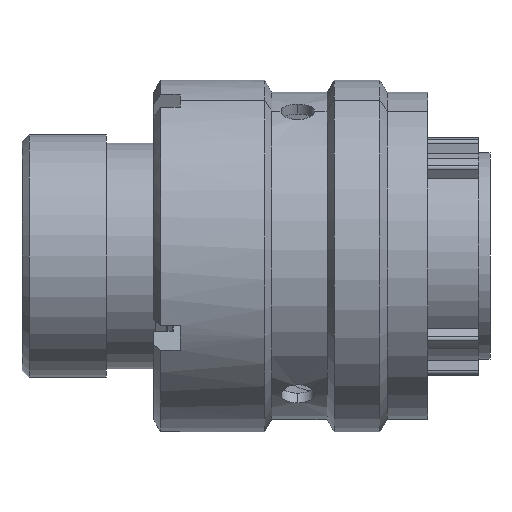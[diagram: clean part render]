
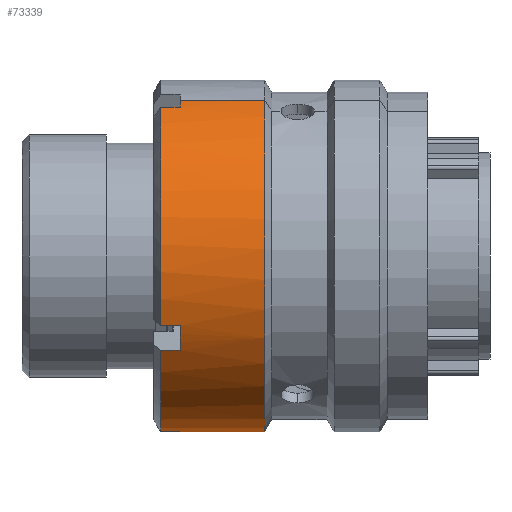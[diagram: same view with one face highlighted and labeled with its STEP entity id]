
A CAD part, front view. The second image highlights one B-rep face of the part: STEP entity #73339.
In plain terms, the highlighted cylindrical face has radius 12.55 mm (diameter 25.1 mm), a partial arc.
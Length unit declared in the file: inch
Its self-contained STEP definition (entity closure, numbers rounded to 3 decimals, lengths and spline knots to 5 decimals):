
#1937 = EDGE_CURVE ( 'NONE', #36918, #10730, #66860, .T. ) ;
#1940 = EDGE_CURVE ( 'NONE', #6874, #10710, #66857, .T. ) ;
#2091 = EDGE_CURVE ( 'NONE', #38088, #35934, #68195, .T. ) ;
#2103 = EDGE_CURVE ( 'NONE', #36918, #36919, #68193, .T. ) ;
#2105 = EDGE_CURVE ( 'NONE', #36919, #38088, #69383, .T. ) ;
#2108 = EDGE_CURVE ( 'NONE', #35934, #35935, #69399, .T. ) ;
#2110 = EDGE_CURVE ( 'NONE', #35935, #72021, #68194, .T. ) ;
#2112 = EDGE_CURVE ( 'NONE', #72021, #5659, #69406, .T. ) ;
#2115 = EDGE_CURVE ( 'NONE', #5659, #5840, #68201, .T. ) ;
#2117 = EDGE_CURVE ( 'NONE', #5840, #5725, #69418, .T. ) ;
#2119 = EDGE_CURVE ( 'NONE', #5725, #6874, #68202, .T. ) ;
#2122 = EDGE_CURVE ( 'NONE', #10730, #10710, #68207, .T. ) ;
#5659 = VERTEX_POINT ( 'NONE', #32807 ) ;
#5725 = VERTEX_POINT ( 'NONE', #32813 ) ;
#5840 = VERTEX_POINT ( 'NONE', #32810 ) ;
#6874 = VERTEX_POINT ( 'NONE', #32817 ) ;
#10710 = VERTEX_POINT ( 'NONE', #33867 ) ;
#10730 = VERTEX_POINT ( 'NONE', #33893 ) ;
#32807 = CARTESIAN_POINT ( 'NONE',  ( 0.3889, -0.4174, -0.26439 ) ) ;
#32810 = CARTESIAN_POINT ( 'NONE',  ( 0.3889, 0.19473, -0.4541 ) ) ;
#32813 = CARTESIAN_POINT ( 'NONE',  ( 0.44402, 0.19473, -0.4541 ) ) ;
#32817 = CARTESIAN_POINT ( 'NONE',  ( 0.44402, 0.23029, -0.43714 ) ) ;
#33867 = CARTESIAN_POINT ( 'NONE',  ( 0.68102, 0.23029, -0.43714 ) ) ;
#33893 = CARTESIAN_POINT ( 'NONE',  ( 0.68102, -0.23029, 0.43714 ) ) ;
#34641 = EDGE_LOOP ( 'NONE', ( #36580, #36581, #36583, #36585, #36587, #36589, #36591, #36593, #36594, #36596, #36598, #36600 ) ) ;
#35934 = VERTEX_POINT ( 'NONE', #51190 ) ;
#35935 = VERTEX_POINT ( 'NONE', #51191 ) ;
#36580 = ORIENTED_EDGE ( 'NONE', *, *, #1937, .F. ) ;
#36581 = ORIENTED_EDGE ( 'NONE', *, *, #2103, .T. ) ;
#36583 = ORIENTED_EDGE ( 'NONE', *, *, #2105, .T. ) ;
#36585 = ORIENTED_EDGE ( 'NONE', *, *, #2091, .T. ) ;
#36587 = ORIENTED_EDGE ( 'NONE', *, *, #2108, .T. ) ;
#36589 = ORIENTED_EDGE ( 'NONE', *, *, #2110, .T. ) ;
#36591 = ORIENTED_EDGE ( 'NONE', *, *, #2112, .T. ) ;
#36593 = ORIENTED_EDGE ( 'NONE', *, *, #2115, .T. ) ;
#36594 = ORIENTED_EDGE ( 'NONE', *, *, #2117, .T. ) ;
#36596 = ORIENTED_EDGE ( 'NONE', *, *, #2119, .T. ) ;
#36598 = ORIENTED_EDGE ( 'NONE', *, *, #1940, .T. ) ;
#36600 = ORIENTED_EDGE ( 'NONE', *, *, #2122, .F. ) ;
#36918 = VERTEX_POINT ( 'NONE', #51374 ) ;
#36919 = VERTEX_POINT ( 'NONE', #51376 ) ;
#38088 = VERTEX_POINT ( 'NONE', #51417 ) ;
#51190 = CARTESIAN_POINT ( 'NONE',  ( 0.3889, -0.4541, -0.19473 ) ) ;
#51191 = CARTESIAN_POINT ( 'NONE',  ( 0.44402, -0.4541, -0.19473 ) ) ;
#51374 = CARTESIAN_POINT ( 'NONE',  ( 0.44402, -0.23029, 0.43714 ) ) ;
#51376 = CARTESIAN_POINT ( 'NONE',  ( 0.44402, -0.26439, 0.4174 ) ) ;
#51417 = CARTESIAN_POINT ( 'NONE',  ( 0.3889, -0.26439, 0.4174 ) ) ;
#52741 = CARTESIAN_POINT ( 'NONE',  ( 0.44402, -0.4174, -0.26439 ) ) ;
#56361 = AXIS2_PLACEMENT_3D ( 'NONE', #57583, #57603, #57604 ) ;
#57582 = FACE_OUTER_BOUND ( 'NONE', #34641, .T. ) ;
#57583 = CARTESIAN_POINT ( 'NONE',  ( 1.1389, 0., 0. ) ) ;
#57584 = CYLINDRICAL_SURFACE ( 'NONE', #56361, 0.49409 ) ;
#57603 = DIRECTION ( 'NONE',  ( 1., 0., 0. ) ) ;
#57604 = DIRECTION ( 'NONE',  ( 0., 0.466, -0.885 ) ) ;
#66857 = LINE ( 'NONE', #66872, #68161 ) ;
#66860 = LINE ( 'NONE', #66863, #68157 ) ;
#66863 = CARTESIAN_POINT ( 'NONE',  ( 1.1389, -0.23029, 0.43714 ) ) ;
#66871 = DIRECTION ( 'NONE',  ( 1., 0., 0. ) ) ;
#66872 = CARTESIAN_POINT ( 'NONE',  ( 1.1389, 0.23029, -0.43714 ) ) ;
#66875 = DIRECTION ( 'NONE',  ( 1., 0., 0. ) ) ;
#68157 = VECTOR ( 'NONE', #66871, 39.37008 ) ;
#68161 = VECTOR ( 'NONE', #66875, 39.37008 ) ;
#68191 = AXIS2_PLACEMENT_3D ( 'NONE', #69350, #69352, #69354 ) ;
#68193 = CIRCLE ( 'NONE', #68199, 0.49409 ) ;
#68194 = CIRCLE ( 'NONE', #68197, 0.49409 ) ;
#68195 = CIRCLE ( 'NONE', #68191, 0.49409 ) ;
#68196 = VECTOR ( 'NONE', #69397, 39.37008 ) ;
#68197 = AXIS2_PLACEMENT_3D ( 'NONE', #69409, #69410, #69412 ) ;
#68198 = VECTOR ( 'NONE', #69403, 39.37008 ) ;
#68199 = AXIS2_PLACEMENT_3D ( 'NONE', #69388, #69390, #69392 ) ;
#68200 = AXIS2_PLACEMENT_3D ( 'NONE', #69424, #69425, #69426 ) ;
#68201 = CIRCLE ( 'NONE', #68200, 0.49409 ) ;
#68202 = CIRCLE ( 'NONE', #68204, 0.49409 ) ;
#68203 = VECTOR ( 'NONE', #69416, 39.37008 ) ;
#68204 = AXIS2_PLACEMENT_3D ( 'NONE', #69437, #69439, #69441 ) ;
#68206 = VECTOR ( 'NONE', #69431, 39.37008 ) ;
#68207 = CIRCLE ( 'NONE', #68209, 0.49409 ) ;
#68209 = AXIS2_PLACEMENT_3D ( 'NONE', #69446, #69447, #69448 ) ;
#69350 = CARTESIAN_POINT ( 'NONE',  ( 0.3889, 0., 0. ) ) ;
#69352 = DIRECTION ( 'NONE',  ( 1., 0., 0. ) ) ;
#69354 = DIRECTION ( 'NONE',  ( 0., 0.466, -0.885 ) ) ;
#69383 = LINE ( 'NONE', #69395, #68196 ) ;
#69388 = CARTESIAN_POINT ( 'NONE',  ( 0.44402, 0., 0. ) ) ;
#69390 = DIRECTION ( 'NONE',  ( 1., 0., 0. ) ) ;
#69392 = DIRECTION ( 'NONE',  ( 0., -0.885, -0.466 ) ) ;
#69395 = CARTESIAN_POINT ( 'NONE',  ( 1.1389, -0.26439, 0.4174 ) ) ;
#69397 = DIRECTION ( 'NONE',  ( -1., 0., 0. ) ) ;
#69399 = LINE ( 'NONE', #69402, #68198 ) ;
#69402 = CARTESIAN_POINT ( 'NONE',  ( 1.1389, -0.4541, -0.19473 ) ) ;
#69403 = DIRECTION ( 'NONE',  ( 1., 0., 0. ) ) ;
#69406 = LINE ( 'NONE', #69414, #68203 ) ;
#69409 = CARTESIAN_POINT ( 'NONE',  ( 0.44402, 0., 0. ) ) ;
#69410 = DIRECTION ( 'NONE',  ( 1., 0., 0. ) ) ;
#69412 = DIRECTION ( 'NONE',  ( 0., 0.466, -0.885 ) ) ;
#69414 = CARTESIAN_POINT ( 'NONE',  ( 1.1389, -0.4174, -0.26439 ) ) ;
#69416 = DIRECTION ( 'NONE',  ( -1., 0., 0. ) ) ;
#69418 = LINE ( 'NONE', #69429, #68206 ) ;
#69424 = CARTESIAN_POINT ( 'NONE',  ( 0.3889, 0., 0. ) ) ;
#69425 = DIRECTION ( 'NONE',  ( 1., 0., 0. ) ) ;
#69426 = DIRECTION ( 'NONE',  ( 0., 0.466, -0.885 ) ) ;
#69429 = CARTESIAN_POINT ( 'NONE',  ( 1.1389, 0.19473, -0.4541 ) ) ;
#69431 = DIRECTION ( 'NONE',  ( 1., 0., 0. ) ) ;
#69437 = CARTESIAN_POINT ( 'NONE',  ( 0.44402, 0., 0. ) ) ;
#69439 = DIRECTION ( 'NONE',  ( 1., 0., 0. ) ) ;
#69441 = DIRECTION ( 'NONE',  ( 0., 0.885, 0.466 ) ) ;
#69446 = CARTESIAN_POINT ( 'NONE',  ( 0.68102, 0., 0. ) ) ;
#69447 = DIRECTION ( 'NONE',  ( 1., 0., 0. ) ) ;
#69448 = DIRECTION ( 'NONE',  ( 0., 0.466, -0.885 ) ) ;
#72021 = VERTEX_POINT ( 'NONE', #52741 ) ;
#73339 = ADVANCED_FACE ( 'NONE', ( #57582 ), #57584, .T. ) ;
